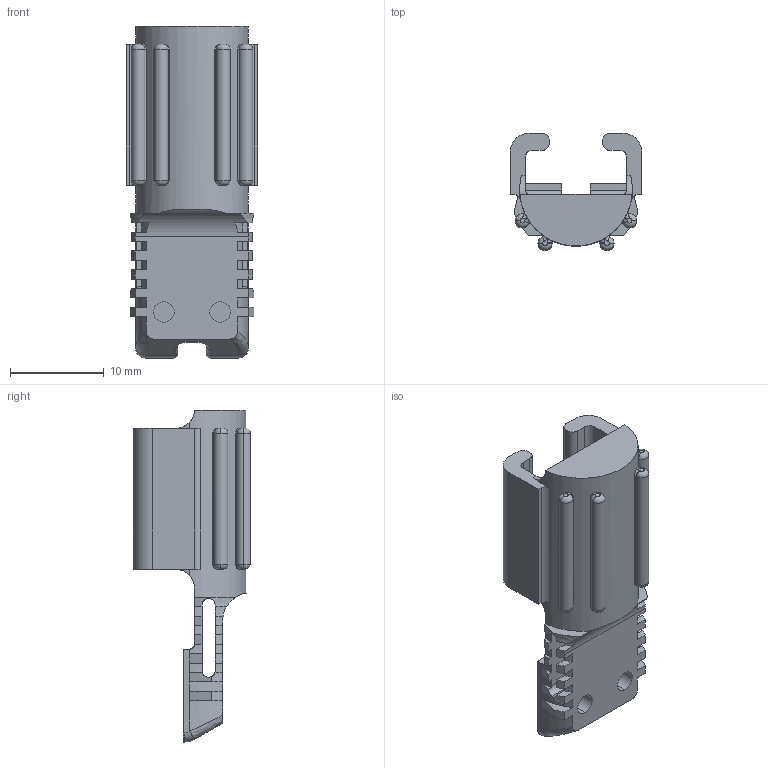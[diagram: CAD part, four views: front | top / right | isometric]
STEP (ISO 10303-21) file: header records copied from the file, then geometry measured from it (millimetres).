
FILE_DESCRIPTION (( 'STEP AP203' ), '1' );
FILE_NAME ('BR01_FOOT_HEEL_v6.STEP', '2023-06-17T07:28:06', ( '' ), ( '' ), '', '', '' );
FILE_SCHEMA (( 'CONFIG_CONTROL_DESIGN' ));
Length unit declared in the file: millimetre
Products named in the file (1): BR01_FOOT_HEEL_v6
Bounding box: 14 x 12.47 x 35.35 mm (x, y, z)
Volume: 1717.1 mm3; surface area: 2374 mm2
Topology: 1 solids, 1 shells, 270 faces, 736 edges, 470 vertices
Faces by surface type: plane 115, cylinder 101, torus 50, bspline 4
Entity records: 8957 total; most frequent: CARTESIAN_POINT 2018, ORIENTED_EDGE 1472, DIRECTION 1458, EDGE_CURVE 736, AXIS2_PLACEMENT_3D 538, VERTEX_POINT 470, LINE 382, VECTOR 382
